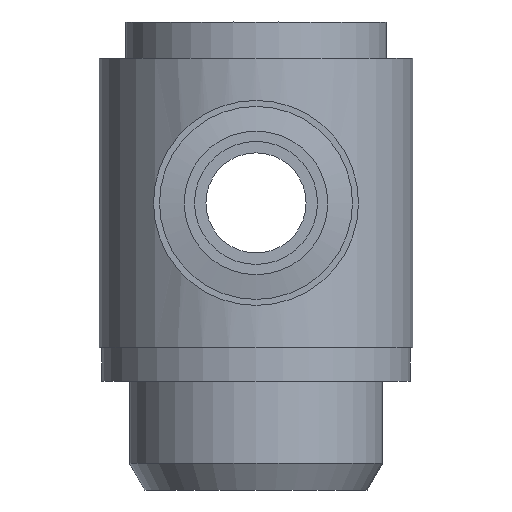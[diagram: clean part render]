
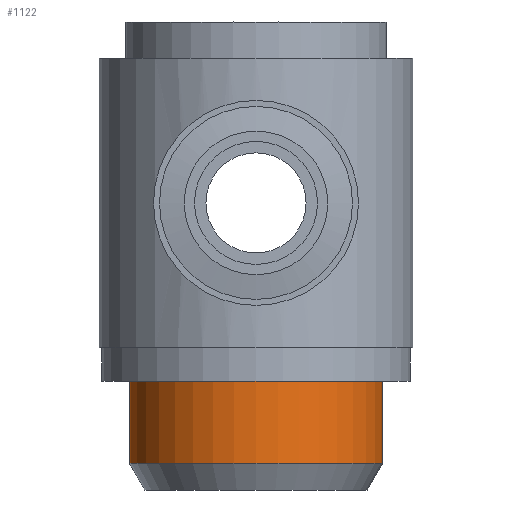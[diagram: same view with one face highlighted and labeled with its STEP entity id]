
A CAD part, front view. The second image highlights one B-rep face of the part: STEP entity #1122.
In plain terms, the highlighted cylindrical face has radius 10.5 mm (diameter 21 mm), a full revolution.
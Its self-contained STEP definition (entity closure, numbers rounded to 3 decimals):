
#1082=CARTESIAN_POINT('',(0.,-10.5,-21.6));
#1083=VERTEX_POINT('',#1082);
#1084=CARTESIAN_POINT('',(0.0,0.0,-21.6));
#1085=DIRECTION('',(0.0,0.,-1.0));
#1086=DIRECTION('',(0.0,1.0,0.));
#1087=AXIS2_PLACEMENT_3D('',#1084,#1085,#1086);
#1088=CIRCLE('',#1087,10.5);
#1089=EDGE_CURVE('',#1083,#1083,#1088,.T.);
#1103=CARTESIAN_POINT('',(0.0,0.0,-19.3));
#1104=DIRECTION('',(0.0,0.0,1.0));
#1105=DIRECTION('',(0.0,-1.0,0.));
#1106=AXIS2_PLACEMENT_3D('',#1103,#1104,#1105);
#1107=CYLINDRICAL_SURFACE('',#1106,10.5);
#1108=CARTESIAN_POINT('',(0.0,-10.5,-14.8));
#1109=VERTEX_POINT('',#1108);
#1110=CARTESIAN_POINT('',(0.0,0.0,-14.8));
#1111=DIRECTION('',(0.0,0.,1.0));
#1112=DIRECTION('',(0.0,-1.0,0.));
#1113=AXIS2_PLACEMENT_3D('',#1110,#1111,#1112);
#1114=CIRCLE('',#1113,10.5);
#1115=EDGE_CURVE('',#1109,#1109,#1114,.T.);
#1116=ORIENTED_EDGE('',*,*,#1115,.F.);
#1117=EDGE_LOOP('',(#1116));
#1118=FACE_OUTER_BOUND('',#1117,.T.);
#1119=ORIENTED_EDGE('',*,*,#1089,.F.);
#1120=EDGE_LOOP('',(#1119));
#1121=FACE_BOUND('',#1120,.T.);
#1122=ADVANCED_FACE('',(#1118,#1121),#1107,.T.);
